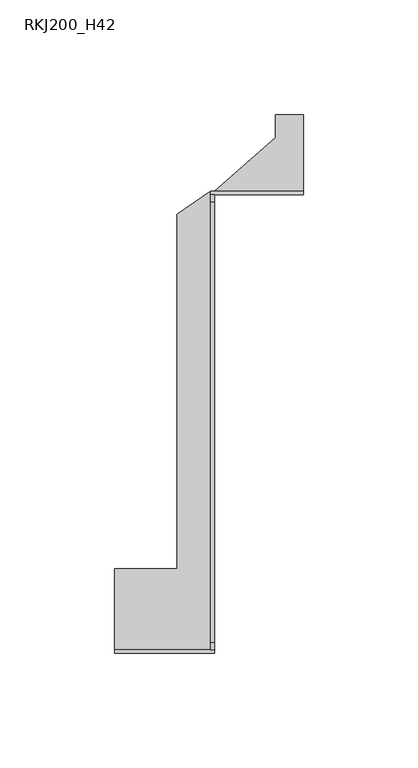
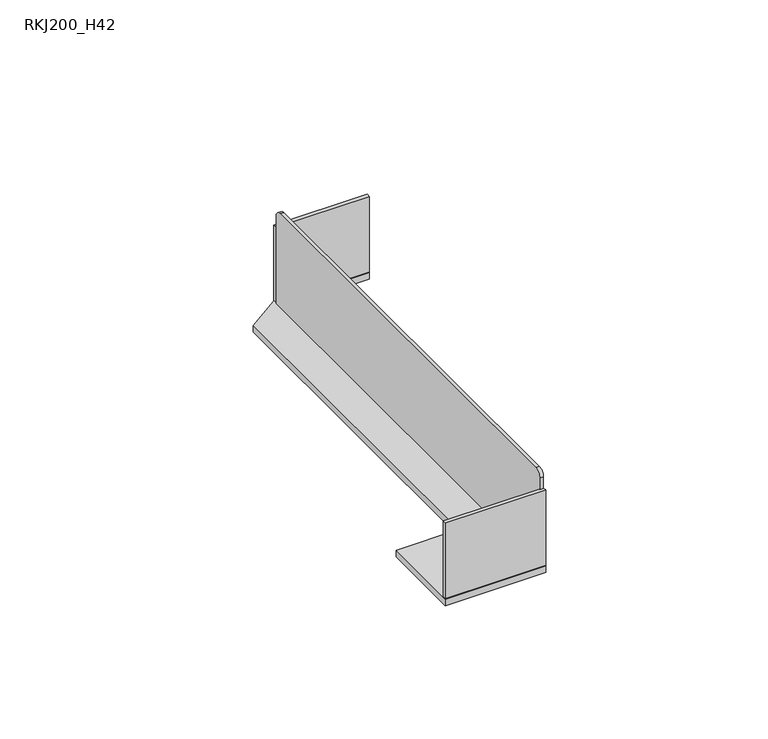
"""IFC4 building model written with IfcOpenShell, lengths in millimetres: cable carrier fitting geometry, BAKS_SUB_Reduction angular : RKJ200_H42."""

import ifcopenshell
import ifcopenshell.guid

model = None  # the IFC model being written
_history = None  # IfcOwnerHistory: only IFC2X3 demands one
_inside = {}  # id of a spatial element -> (the spatial element, [elements in it])
_under = {}  # id of a project, library or spatial element -> (it, [spatial elements below it])
_declared = {}  # id of a project -> (the project, [libraries it declares])
_typed = {}  # id of a type object -> (the type object, [elements of that type])
_made_of = {}  # id of a material, layer set ... -> (it, [elements and type objects made of it])


def new_model(schema):
    """Start an empty IFC model of exactly this schema.

    Asked for "IFC4X3", IfcOpenShell would pick the latest addendum, in which some entities
    have other attributes; the version numbers below select the first issue.
    IFC2X3 requires an IfcOwnerHistory on every rooted entity: one is made here for all.
    """
    global model, _history
    if schema == "IFC4X3":
        model = ifcopenshell.file(schema_version=(4, 3, 0, 0))
    else:
        model = ifcopenshell.file(schema=schema)
    _inside.clear()
    _under.clear()
    _declared.clear()
    _typed.clear()
    _made_of.clear()
    _history = None
    if model.schema == "IFC2X3":
        org = make("IfcOrganization", Name="unknown")
        user = make(
            "IfcPersonAndOrganization",
            ThePerson=make("IfcPerson", FamilyName="unknown"),
            TheOrganization=org,
        )
        app = make(
            "IfcApplication",
            ApplicationDeveloper=org,
            Version="unknown",
            ApplicationFullName="unknown",
            ApplicationIdentifier="unknown",
        )
        _history = make(
            "IfcOwnerHistory",
            OwningUser=user,
            OwningApplication=app,
            ChangeAction="ADDED",
            CreationDate=0,
        )
    return model


def make(cls, **values):
    """One entity of the class cls with the attributes given. An attribute that is None is left unset."""
    return model.create_entity(
        cls, **{name: value for name, value in values.items() if value is not None}
    )


def rooted(cls, **values):
    """An entity with a GlobalId (a new one), such as an element, a storey or a relation."""
    return make(cls, GlobalId=ifcopenshell.guid.new(), OwnerHistory=_history, **values)


def si_unit(unit_type, name, prefix=None):
    """IfcSIUnit, for example si_unit("LENGTHUNIT", "METRE", prefix="MILLI")."""
    return make("IfcSIUnit", UnitType=unit_type, Prefix=prefix, Name=name)


def assignment(units):
    """IfcUnitAssignment: the units of a project."""
    return None if units is None else make("IfcUnitAssignment", Units=units)


def point(xyz):
    """IfcCartesianPoint."""
    return None if xyz is None else make("IfcCartesianPoint", Coordinates=xyz)


def direction(xyz):
    """IfcDirection."""
    return None if xyz is None else make("IfcDirection", DirectionRatios=xyz)


def frame(location, z_axis=None, x_axis=None):
    """IfcAxis2Placement3D, a coordinate frame: its origin and axes. An axis left out is left unset."""
    return make(
        "IfcAxis2Placement3D",
        Location=point(location),
        Axis=direction(z_axis),
        RefDirection=direction(x_axis),
    )


def frame_2d(location, x_axis=None):
    """IfcAxis2Placement2D, a coordinate frame in the plane: its origin and x axis."""
    return make(
        "IfcAxis2Placement2D", Location=point(location), RefDirection=direction(x_axis)
    )


def origin():
    """The frame at (0, 0, 0) with its axes left unset."""
    return frame((0.0, 0.0, 0.0))


def origin_with_axes():
    """The frame at (0, 0, 0) with the z axis (0, 0, 1) and the x axis (1, 0, 0) written out."""
    return frame((0.0, 0.0, 0.0), z_axis=(0.0, 0.0, 1.0), x_axis=(1.0, 0.0, 0.0))


def place(relative_to, where):
    """IfcLocalPlacement: puts the frame where relative to a parent placement (None: the world)."""
    return make(
        "IfcLocalPlacement", PlacementRelTo=relative_to, RelativePlacement=where
    )


def context(
    kind, dimensions, precision=None, world=None, true_north=None, identifier=None
):
    """IfcGeometricRepresentationContext, for example the 3D "Model" context."""
    return make(
        "IfcGeometricRepresentationContext",
        ContextIdentifier=identifier,
        ContextType=kind,
        CoordinateSpaceDimension=dimensions,
        Precision=precision,
        WorldCoordinateSystem=world,
        TrueNorth=true_north,
    )


def project(units=None, contexts=None):
    """IfcProject with its units and contexts."""
    return rooted(
        "IfcProject",
        Name="project",
        RepresentationContexts=contexts,
        UnitsInContext=assignment(units),
    )


def spatial(cls, under=None, at=None, **own):
    """A site, building, storey or space (cls), placed at a placement, below another one or the project."""
    s = rooted(cls, ObjectPlacement=at, **own)
    if under is not None:
        _under.setdefault(under.id(), (under, []))[1].append(s)
    return s


def polyline(points):
    """IfcPolyline through the points."""
    return make("IfcPolyline", Points=[point(p) for p in points])


def circle_curve(where, radius):
    """IfcCircle in the frame where."""
    return make("IfcCircle", Position=where, Radius=radius)


def trimmed(basis, trim1, trim2, sense, master):
    """IfcTrimmedCurve: the piece of a basis curve between two trims."""
    return make(
        "IfcTrimmedCurve",
        BasisCurve=basis,
        Trim1=trim1,
        Trim2=trim2,
        SenseAgreement=sense,
        MasterRepresentation=master,
    )


def segment(curve, same_sense, transition):
    """IfcCompositeCurveSegment."""
    return make(
        "IfcCompositeCurveSegment",
        Transition=transition,
        SameSense=same_sense,
        ParentCurve=curve,
    )


def composite_curve(segments, self_intersect=None):
    """IfcCompositeCurve: segments joined end to end."""
    return make("IfcCompositeCurve", Segments=segments, SelfIntersect=self_intersect)


def outline(outer, holes=None, kind="AREA"):
    """IfcArbitraryClosedProfileDef: a profile drawn as a closed curve; with holes, ...WithVoids."""
    if holes is None:
        return make("IfcArbitraryClosedProfileDef", ProfileType=kind, OuterCurve=outer)
    return make(
        "IfcArbitraryProfileDefWithVoids",
        ProfileType=kind,
        OuterCurve=outer,
        InnerCurves=holes,
    )


def extrude(swept, where, along, depth):
    """IfcExtrudedAreaSolid: the profile swept, set in the frame where, extruded along a direction by depth."""
    return make(
        "IfcExtrudedAreaSolid",
        SweptArea=swept,
        Position=where,
        ExtrudedDirection=direction(along),
        Depth=depth,
    )


def shape(context_of_items, identifier, shape_type, items):
    """IfcShapeRepresentation: the items that make up one representation, for example the "Body"."""
    return make(
        "IfcShapeRepresentation",
        ContextOfItems=context_of_items,
        RepresentationIdentifier=identifier,
        RepresentationType=shape_type,
        Items=items,
    )


def source(mapping_origin, context_of_items, identifier, shape_type, items):
    """IfcRepresentationMap: a shape defined once, which mapped items show again and again."""
    return make(
        "IfcRepresentationMap",
        MappingOrigin=mapping_origin,
        MappedRepresentation=shape(context_of_items, identifier, shape_type, items),
    )


def transform(
    local_origin,
    x_axis=None,
    y_axis=None,
    z_axis=None,
    scale=None,
    scale2=None,
    scale3=None,
    uniform=True,
):
    """IfcCartesianTransformationOperator3D, or its non-uniform kind. x_axis, y_axis, z_axis: its Axis1, 2, 3."""
    if uniform:
        return make(
            "IfcCartesianTransformationOperator3D",
            Axis1=direction(x_axis),
            Axis2=direction(y_axis),
            LocalOrigin=point(local_origin),
            Scale=scale,
            Axis3=direction(z_axis),
        )
    return make(
        "IfcCartesianTransformationOperator3DnonUniform",
        Axis1=direction(x_axis),
        Axis2=direction(y_axis),
        LocalOrigin=point(local_origin),
        Scale=scale,
        Axis3=direction(z_axis),
        Scale2=scale2,
        Scale3=scale3,
    )


def mapped(mapping_source, mapping_target):
    """IfcMappedItem: shows the shape of a source again, moved by a transform."""
    return make(
        "IfcMappedItem", MappingSource=mapping_source, MappingTarget=mapping_target
    )


def made_of(thing, what):
    """Note that an element or type object is made of a material, layer set ...; save() writes the relation."""
    if what is not None:
        _made_of.setdefault(what.id(), (what, []))[1].append(thing)
    return thing


def element(
    cls,
    number,
    at=None,
    inside=None,
    cuts=None,
    type_object=None,
    material=None,
    context=None,
    identifier="Body",
    shape_type=None,
    held_by="IfcProductDefinitionShape",
    body=None,
    shapes=None,
    **own,
):
    """One element of the class cls, such as IfcWall. Its Tag is "e" and its number.

    at: its placement. inside: the storey or other place that contains it. cuts: it is an
    opening in that element (IfcRelVoidsElement). A single representation is given by context,
    identifier, shape_type and body (its items); several are given by shapes. held_by: the class
    of the entity that holds the representations. save() writes the other relations.
    """
    e = rooted(cls, Tag="e%d" % number, ObjectPlacement=at, **own)
    if body is not None:
        shapes = [shape(context, identifier, shape_type, body)]
    if shapes is not None:
        e.Representation = make(held_by, Representations=shapes)
    if inside is not None:
        _inside.setdefault(inside.id(), (inside, []))[1].append(e)
    if cuts is not None:
        rooted(
            "IfcRelVoidsElement", RelatingBuildingElement=cuts, RelatedOpeningElement=e
        )
    if type_object is not None:
        _typed.setdefault(type_object.id(), (type_object, []))[1].append(e)
    return made_of(e, material)


def aggregate(whole, parts):
    """IfcRelAggregates: a whole, such as a stair, and the parts it consists of."""
    return rooted("IfcRelAggregates", RelatingObject=whole, RelatedObjects=parts)


def save(model, path):
    """Write the relations noted so far, then the file.

    IfcRelAggregates (storeys below a building ...), IfcRelContainedInSpatialStructure (elements
    in a storey), IfcRelDefinesByType, IfcRelAssociatesMaterial and IfcRelDeclares: one each for
    every whole, place, type object, material and project.
    """
    for whole, parts in _under.values():
        aggregate(whole, parts)
    for where, things in _inside.values():
        rooted(
            "IfcRelContainedInSpatialStructure",
            RelatedElements=things,
            RelatingStructure=where,
        )
    for kind, things in _typed.values():
        rooted("IfcRelDefinesByType", RelatedObjects=things, RelatingType=kind)
    for what, things in _made_of.values():
        rooted("IfcRelAssociatesMaterial", RelatedObjects=things, RelatingMaterial=what)
    for by, libraries in _declared.values():
        rooted("IfcRelDeclares", RelatingContext=by, RelatedDefinitions=libraries)
    model.write(path)


def rkj200_h42_1d64d163(model_context):
    return source(origin(), model_context, "Body", "SweptSolid", [
        extrude(outline(polyline([(40.5, 233.375), (40.5, 198.375), (1.625, 198.375), (1.625, 200.0), (28.2962179, 223.375), (28.2962179, 233.375), (40.5, 233.375)])), frame((0.0, 0.0, -3.0), z_axis=(0.0, 0.0, 1.0), x_axis=(1.0, 0.0, 0.0)), (0.0, 0.0, 1.0), 3.0),
        extrude(outline(composite_curve([segment(polyline([(3.0, 43.0), (195.375, 43.0)]), True, "CONTINUOUS"), segment(trimmed(circle_curve(frame_2d((195.375, 40.0)), 3.0), [point((195.375, 43.0))], [point((198.375, 40.0))], False, "CARTESIAN"), True, "CONTINUOUS"), segment(polyline([(198.375, 40.0), (198.375, 0.0), (0.0, 0.0), (0.0, 40.0)]), True, "CONTINUOUS"), segment(trimmed(circle_curve(frame_2d((3.0, 40.0)), 3.0), [point((0.0, 40.0))], [point((3.0, 43.0))], False, "CARTESIAN"), True, "CONTINUOUS")], self_intersect=False)), frame((0.0, 0.0, 0.0), z_axis=(1.0, 0.0, 0.0), x_axis=(0.0, 1.0, 0.0)), (0.0, 0.0, 1.0), 1.625),
        extrude(outline(polyline([(-14.655422, 190.0), (0.0, 200.0), (1.625, 200.0), (1.625, -1.625), (-42.0, -1.625), (-42.0, 35.375), (-14.655422, 35.375), (-14.655422, 190.0)])), frame((0.0, 0.0, -3.0), z_axis=(0.0, 0.0, 1.0), x_axis=(1.0, 0.0, 0.0)), (0.0, 0.0, 1.0), 3.0),
        extrude(outline(polyline([(0.0, 200.0), (40.5, 200.0), (40.5, 198.375), (0.0, 198.375), (0.0, 200.0)])), origin_with_axes(), (0.0, 0.0, 1.0), 35.0),
        extrude(outline(polyline([(1.625, 0.0), (1.625, -1.625), (-42.0, -1.625), (-42.0, 0.0), (1.625, 0.0)])), origin_with_axes(), (0.0, 0.0, 1.0), 35.0),
    ])


if __name__ == "__main__":
    model = new_model("IFC4")
    model_context = context("Model", 3, world=origin())
    ifc_project = project(units=[si_unit("LENGTHUNIT", "METRE", prefix="MILLI")], contexts=[model_context])
    site = spatial("IfcSite", under=ifc_project)
    building = spatial("IfcBuilding", under=site)
    placement = place(None, origin())
    rkj200_h42_shape = rkj200_h42_1d64d163(model_context)
    element("IfcCableCarrierFitting", 1, ObjectType="BAKS_SUB_Reduction angular : RKJ200_H42", at=placement, inside=building, context=model_context, shape_type="MappedRepresentation", body=[
        mapped(rkj200_h42_shape, transform((0.0, 0.0, 0.0), x_axis=(1.0, 0.0, 0.0), y_axis=(0.0, 1.0, 0.0), z_axis=(0.0, 0.0, 1.0))),
    ])
    save(model, "model.ifc")
